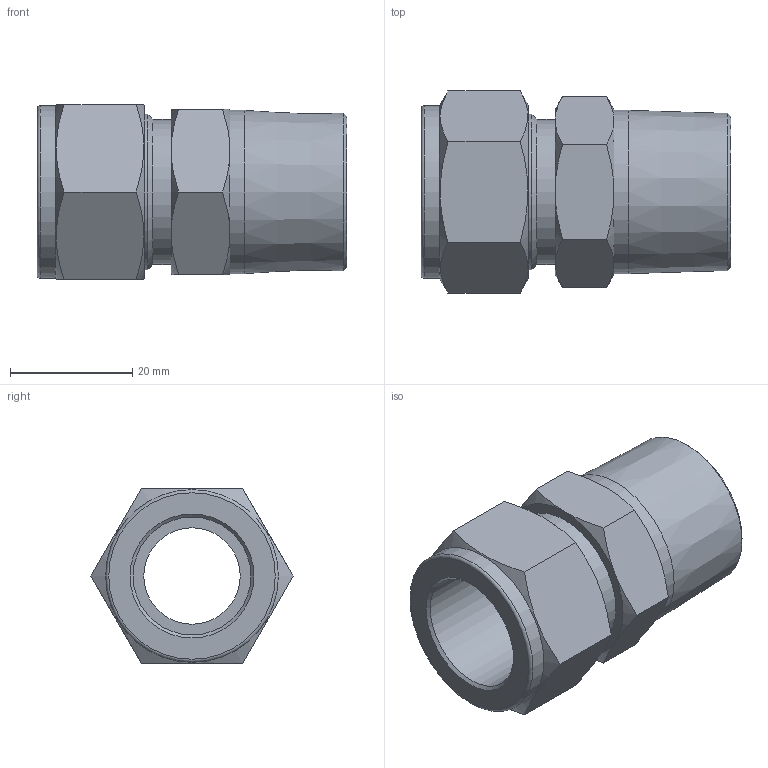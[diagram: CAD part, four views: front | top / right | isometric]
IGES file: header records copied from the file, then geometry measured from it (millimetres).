
Global section: file name: No Iges File Name specified; native system: Autodesk Inventor 2012; preprocessor: AutoDesk Inventor Iges Exporter R2012; author: 硅己绕,,1; organization: 1; date: 20150603.093312; units: millimetre
Bounding box: 50.59 x 33 x 28.57 mm (x, y, z)
Volume: 18163.9 mm3; surface area: 8390.1 mm2
Topology: 1 solids, 1 shells, 45 faces, 93 edges, 55 vertices
Faces by surface type: plane 19, cone 17, cylinder 4, revolution 4, torus 1
Full cylindrical faces by diameter (mm): 23.7 x1, 25.4 x1, 26.67 x1, 28.2 x1
